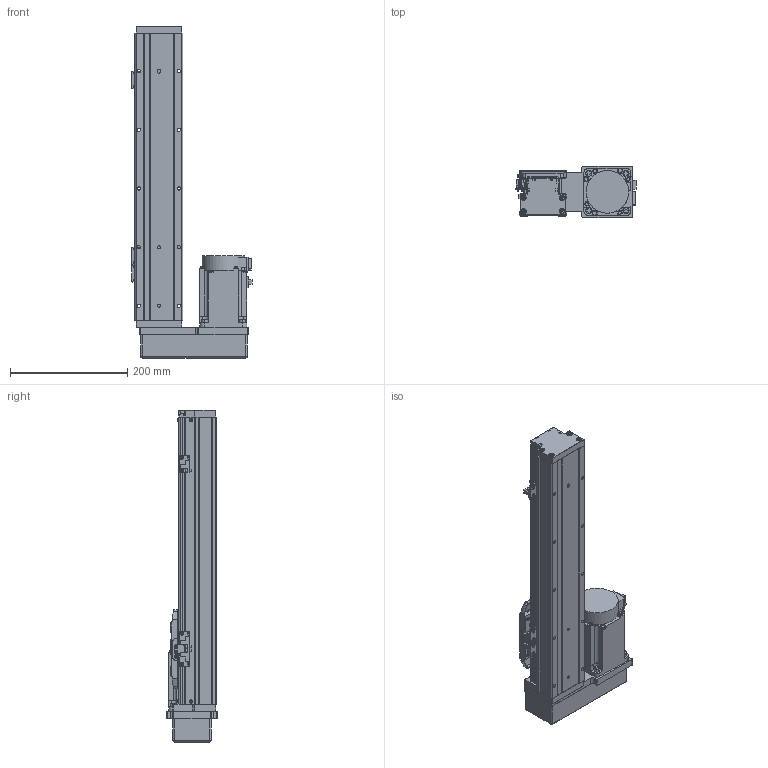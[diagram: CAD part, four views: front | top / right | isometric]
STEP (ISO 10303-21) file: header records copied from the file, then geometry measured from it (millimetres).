
FILE_DESCRIPTION (( 'STEP AP203' ), '1' );
FILE_NAME ('GTH8-300-BR-M75-C4.step', '2023-02-14T02:33:03', ( '微软用户' ), ( '微软中国' ), 'SwSTEP 2.0', 'SolidWorks 2020', '' );
FILE_SCHEMA (( 'CONFIG_CONTROL_DESIGN' ));
Length unit declared in the file: millimetre
Products named in the file (18): CTHA86-015-3_CTHA86-015-4; GTH80-003; GBT 70.1-M4×16; CTHA86-035; GTH80-004; GTH80-028; hg-kn73j_-s100; GTH80-006; GTH50-024; GTH8-300-BR-M75-C4; GTH80-013; GTH50-023; GBT 70.3-M3℅6; GBT96.1-2002 3×0.8; GTH80-022; BTH-M3X5X6; GTH80-001_300; GBT 70.1-M3℅6
Assembly tree (57 placements, depth 2):
  GTH8-300-BR-M75-C4
    GTH80-001_300
    GTH80-003
    GTH80-004
    GTH80-006
    GTH80-013
    GBT 70.3-M3℅6  x4
    GTH80-022
    GBT 70.1-M3℅6  x14
    GBT 70.1-M4×16  x8
    GTH80-028  x2
    GTH50-024  x3
    GTH50-023  x3
    GBT96.1-2002 3×0.8  x6
    BTH-M3X5X6  x8
    CTHA86-015-3_CTHA86-015-4
    CTHA86-035
    hg-kn73j_-s100
Bounding box: 204.7 x 87 x 566 mm (x, y, z)
Volume: 3669779 mm3; surface area: 404889.2 mm2
Topology: 59 solids, 59 shells, 2183 faces, 5058 edges, 3096 vertices
Faces by surface type: plane 1153, cylinder 615, cone 243, torus 158, sphere 12, bspline 2
Entity records: 39144 total; most frequent: CARTESIAN_POINT 6575, DIRECTION 6445, ORIENTED_EDGE 5926, EDGE_CURVE 2963, AXIS2_PLACEMENT_3D 2266, VECTOR 1913, LINE 1913, VERTEX_POINT 1871
